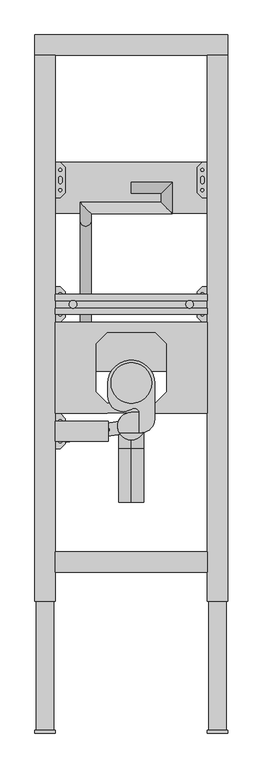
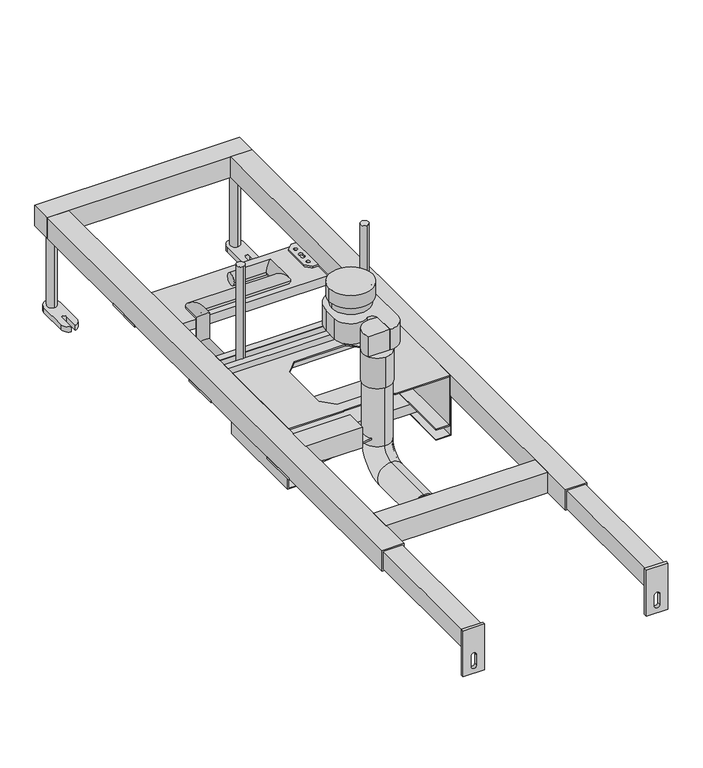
"""IFC4 building model written with IfcOpenShell, lengths in millimetres: flow terminal geometry, LIV-FIX UR ELECTR.TRAP : LIV-FIX UR ELECTR.TRAP."""

from ifc_helpers import new_model, si_unit, point, frame, frame_2d, origin, origin_with_axes, place, context, project, spatial, polyline, circle_curve, ellipse_curve, trimmed, segment, composite_curve, outline, extrude, faceted_brep, source, transform, mapped, element, save
from ifc_brep_helpers import plane_surface, cylinder_surface, revolved_surface, advanced_brep


def flow_terminal_e5d1f87f(model_context):
    return source(origin(), model_context, "Body", "SolidModel", [
        extrude(outline(composite_curve([segment(trimmed(circle_curve(frame_2d((0.0, 489.9399545)), 40.0), [point((-40.0, 489.9399545))], [point((40.0, 489.9399545))], False, "CARTESIAN"), True, "CONTINUOUS"), segment(trimmed(circle_curve(frame_2d((0.0, 489.9399545)), 40.0), [point((40.0, 489.9399545))], [point((-40.0, 489.9399545))], False, "CARTESIAN"), True, "CONTINUOUS")], self_intersect=False)), frame((0.0, 0.0, 375.0), z_axis=(0.0, 0.0, 1.0), x_axis=(1.0, 0.0, 0.0)), (0.0, 0.0, 1.0), 26.0),
        extrude(outline(composite_curve([segment(trimmed(circle_curve(frame_2d((0.0, 489.9399545)), 35.0), [point((-35.0, 489.9399545))], [point((35.0, 489.9399545))], False, "CARTESIAN"), True, "CONTINUOUS"), segment(trimmed(circle_curve(frame_2d((0.0, 489.9399545)), 35.0), [point((35.0, 489.9399545))], [point((-35.0, 489.9399545))], False, "CARTESIAN"), True, "CONTINUOUS")], self_intersect=False)), frame((0.0, 0.0, 360.0), z_axis=(0.0, 0.0, 1.0), x_axis=(1.0, 0.0, 0.0)), (0.0, 0.0, 1.0), 40.0),
        extrude(outline(composite_curve([segment(trimmed(circle_curve(frame_2d((0.0, 489.0)), 46.0), [point((-46.0, 489.0))], [point((46.0, 489.0))], False, "CARTESIAN"), True, "CONTINUOUS"), segment(polyline([(46.0, 489.0), (46.0, 418.8328157)]), True, "CONTINUOUS"), segment(trimmed(circle_curve(frame_2d((19.0, 418.8328157)), 27.0), [point((46.0, 418.8328157))], [point((16.0, 392.0))], False, "CARTESIAN"), True, "CONTINUOUS"), segment(polyline([(16.0, 392.0), (16.0, 430.1457644)]), True, "CONTINUOUS"), segment(trimmed(circle_curve(frame_2d((6.0, 430.1457644)), 10.0), [point((16.0, 430.1457644))], [point((0.5, 438.4974109))], True, "CARTESIAN"), True, "CONTINUOUS"), segment(trimmed(circle_curve(frame_2d((-16.0, 463.5523505)), 30.0), [point((0.5, 438.4974109))], [point((-46.0, 463.5523505))], False, "CARTESIAN"), True, "CONTINUOUS"), segment(polyline([(-46.0, 463.5523505), (-46.0, 489.0)]), True, "CONTINUOUS")], self_intersect=False)), frame((0.0, 0.0, 320.0), z_axis=(0.0, 0.0, 1.0), x_axis=(1.0, 0.0, 0.0)), (0.0, 0.0, 1.0), 40.0),
        extrude(outline(composite_curve([segment(trimmed(circle_curve(frame_2d((0.0, 405.0)), 27.0), [point((-23.6643191, 392.0))], [point((0.0, 432.0))], False, "CARTESIAN"), True, "CONTINUOUS"), segment(polyline([(0.0, 432.0), (16.0, 432.0), (16.0, 392.0), (-23.6643191, 392.0)]), True, "CONTINUOUS")], self_intersect=False)), frame((0.0, 0.0, 320.0), z_axis=(0.0, 0.0, 1.0), x_axis=(1.0, 0.0, 0.0)), (0.0, 0.0, 1.0), 40.0),
        extrude(outline(composite_curve([segment(trimmed(circle_curve(frame_2d((0.0, 405.0)), 27.0), [point((0.0, 432.0))], [point((0.0, 378.0))], False, "CARTESIAN"), True, "CONTINUOUS"), segment(trimmed(circle_curve(frame_2d((0.0, 405.0)), 27.0), [point((0.0, 378.0))], [point((0.0, 432.0))], False, "CARTESIAN"), True, "CONTINUOUS")], self_intersect=False)), frame((0.0, 0.0, 260.0), z_axis=(0.0, 0.0, 1.0), x_axis=(1.0, 0.0, 0.0)), (0.0, 0.0, 1.0), 60.0),
        advanced_brep(
        [(0.0, 864.0, 171.0), (0.0, 886.0, 171.0), (59.0, 864.0, 171.0), (81.0, 886.0, 171.0), (59.0, 846.0, 171.0), (81.0, 824.0, 171.0), (-101.0, 846.0, 171.0), (-79.0, 824.0, 171.0), (-101.0, 810.0, 171.0), (-79.0, 810.0, 171.0), (-101.0, 810.0, 120.25), (-79.0, 810.0, 120.25), (-101.0, 610.0, 120.25), (-79.0, 610.0, 120.25)],
        [
            (0, 1, circle_curve(frame((0.0, 875.0, 171.0), z_axis=(-1.0, 0.0, 0.0), x_axis=(0.0, 1.0, 0.0)), 11.0)),
            (1, 0, circle_curve(frame((0.0, 875.0, 171.0), z_axis=(-1.0, 0.0, 0.0), x_axis=(0.0, 1.0, 0.0)), 11.0)),
            (0, 2),
            (2, 3, ellipse_curve(frame((70.0, 875.0, 171.0), z_axis=(-0.7071067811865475, 0.7071067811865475, 0.0), x_axis=(-0.7071067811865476, -0.7071067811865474, 0.0)), 15.5563492, 11.0)),
            (3, 1),
            (3, 2, ellipse_curve(frame((70.0, 875.0, 171.0), z_axis=(-0.7071067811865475, 0.7071067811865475, 0.0), x_axis=(-0.7071067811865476, -0.7071067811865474, 0.0)), 15.5563492, 11.0)),
            (2, 4),
            (4, 5, ellipse_curve(frame((70.0, 835.0, 171.0), z_axis=(0.7071067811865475, 0.7071067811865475, 0.0), x_axis=(-0.7071067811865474, 0.7071067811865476, 0.0)), 15.5563492, 11.0)),
            (5, 3),
            (5, 4, ellipse_curve(frame((70.0, 835.0, 171.0), z_axis=(0.7071067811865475, 0.7071067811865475, 0.0), x_axis=(-0.7071067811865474, 0.7071067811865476, 0.0)), 15.5563492, 11.0)),
            (4, 6),
            (6, 7, ellipse_curve(frame((-90.0, 835.0, 171.0), z_axis=(0.7071067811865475, 0.7071067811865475, 0.0), x_axis=(0.7071067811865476, -0.7071067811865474, 0.0)), 15.5563492, 11.0)),
            (7, 5),
            (7, 6, ellipse_curve(frame((-90.0, 835.0, 171.0), z_axis=(0.7071067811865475, 0.7071067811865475, 0.0), x_axis=(0.7071067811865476, -0.7071067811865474, 0.0)), 15.5563492, 11.0)),
            (6, 8),
            (8, 9, ellipse_curve(frame((-90.0, 810.0, 171.0), z_axis=(0.0, 0.7071067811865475, 0.7071067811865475), x_axis=(0.0, 0.7071067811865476, -0.7071067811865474)), 15.5563492, 11.0)),
            (9, 7),
            (9, 8, ellipse_curve(frame((-90.0, 810.0, 171.0), z_axis=(0.0, 0.7071067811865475, 0.7071067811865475), x_axis=(0.0, 0.7071067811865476, -0.7071067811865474)), 15.5563492, 11.0)),
            (8, 10),
            (10, 11, ellipse_curve(frame((-90.0, 810.0, 120.25), z_axis=(0.0, 0.7071067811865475, 0.7071067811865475), x_axis=(0.0, -0.7071067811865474, 0.7071067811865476)), 15.5563492, 11.0)),
            (11, 9),
            (11, 10, ellipse_curve(frame((-90.0, 810.0, 120.25), z_axis=(0.0, 0.7071067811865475, 0.7071067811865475), x_axis=(0.0, -0.7071067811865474, 0.7071067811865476)), 15.5563492, 11.0)),
            (12, 13, circle_curve(frame((-90.0, 610.0, 120.25), z_axis=(0.0, -1.0, 0.0), x_axis=(1.0, 0.0, 0.0)), 11.0)),
            (13, 12, circle_curve(frame((-90.0, 610.0, 120.25), z_axis=(0.0, -1.0, 0.0), x_axis=(1.0, 0.0, 0.0)), 11.0)),
            (10, 12),
            (13, 11),
        ],
        [
            plane_surface(frame((0.0, 875.0, 160.0), z_axis=(-1.0, 0.0, 0.0), x_axis=(0.0, 1.0, 0.0))),
            cylinder_surface(frame((0.0, 875.0, 171.0), z_axis=(-1.0, 0.0, 0.0), x_axis=(0.0, 1.0, 0.0)), 11.0),
            cylinder_surface(frame((70.0, 875.0, 171.0), z_axis=(0.0, 1.0, 0.0), x_axis=(1.0, 0.0, 0.0)), 11.0),
            cylinder_surface(frame((70.0, 835.0, 171.0), z_axis=(1.0, 0.0, 0.0), x_axis=(0.0, -1.0, 0.0)), 11.0),
            cylinder_surface(frame((-90.0, 835.0, 171.0), z_axis=(0.0, 1.0, 0.0), x_axis=(1.0, 0.0, 0.0)), 11.0),
            cylinder_surface(frame((-90.0, 810.0, 171.0), z_axis=(0.0, 0.0, 1.0), x_axis=(1.0, 0.0, 0.0)), 11.0),
            plane_surface(frame((-101.0, 610.0, 120.25), z_axis=(0.0, -1.0, 0.0), x_axis=(0.0, 0.0, -1.0))),
            cylinder_surface(frame((-90.0, 810.0, 120.25), z_axis=(0.0, 1.0, 0.0), x_axis=(1.0, 0.0, 0.0)), 11.0),
        ],
        [
            (0, [[1, 2]]),
            (1, [[-1, 3, 4, 5]]),
            (1, [[-2, -5, 6, -3]]),
            (2, [[-4, 7, 8, 9]]),
            (2, [[-6, -9, 10, -7]]),
            (3, [[-8, 11, 12, 13]]),
            (3, [[-10, -13, 14, -11]]),
            (4, [[-12, 15, 16, 17]]),
            (4, [[-14, -17, 18, -15]]),
            (5, [[-16, 19, 20, 21]]),
            (5, [[-18, -21, 22, -19]]),
            (6, [[23, 24]]),
            (7, [[-20, 25, -24, 26]]),
            (7, [[-22, -26, -23, -25]]),
        ],
    ),
        faceted_brep([(-150.0, 610.0, 101.5), (-150.0, 610.0, 200.0), (150.0, 610.0, 200.0), (150.0, 610.0, 101.5), (123.5, 610.0, 101.5), (123.5, 610.0, 103.5), (148.0, 610.0, 103.5), (148.0, 610.0, 198.0), (-148.0, 610.0, 198.0), (-148.0, 610.0, 103.5), (-123.5800615, 610.0, 103.5), (-123.5800615, 610.0, 101.5), (-150.0, 430.0, 101.5), (-123.5800615, 430.0, 101.5), (-123.5800615, 430.0, 103.5), (-148.0, 430.0, 103.5), (-148.0, 430.0, 198.0), (-47.6726189, 430.0, 198.0), (-47.6726189, 430.0, 200.0), (-150.0, 430.0, 200.0), (148.0, 430.0, 198.0), (148.0, 430.0, 103.5), (123.5, 430.0, 103.5), (123.5, 430.0, 101.5), (150.0, 430.0, 101.5), (150.0, 430.0, 200.0), (47.6726189, 430.0, 200.0), (47.6726189, 430.0, 198.0), (-47.6726189, 431.0, 200.0), (47.6726189, 431.0, 200.0), (47.6726189, 589.0, 200.0), (58.3363094, 578.3363094, 200.0), (69.0, 567.6726189, 200.0), (69.0, 472.3273811, 200.0), (58.3363094, 461.6636906, 200.0), (47.6726189, 451.0, 200.0), (-47.6726189, 451.0, 200.0), (-58.3363094, 461.6636906, 200.0), (-69.0, 472.3273811, 200.0), (-69.0, 567.6726189, 200.0), (-58.3363094, 578.3363094, 200.0), (-47.6726189, 589.0, 200.0), (47.6726189, 431.0, 198.0), (-47.6726189, 431.0, 198.0), (58.3363094, 578.3363094, 198.0), (47.6726189, 589.0, 198.0), (-47.6726189, 589.0, 198.0), (-58.3363094, 578.3363094, 198.0), (-69.0, 567.6726189, 198.0), (-69.0, 472.3273811, 198.0), (-58.3363094, 461.6636906, 198.0), (-47.6726189, 451.0, 198.0), (47.6726189, 451.0, 198.0), (58.3363094, 461.6636906, 198.0), (69.0, 472.3273811, 198.0), (69.0, 567.6726189, 198.0)], [[[0, 1, 2, 3, 4, 5, 6, 7, 8, 9, 10, 11]], [[12, 13, 14, 15, 16, 17, 18, 19]], [[20, 21, 22, 23, 24, 25, 26, 27]], [[1, 0, 12, 19]], [[2, 1, 19, 18, 28, 29, 26, 25], [30, 31, 32, 33, 34, 35, 36, 37, 38, 39, 40, 41]], [[3, 2, 25, 24]], [[4, 3, 24, 23]], [[5, 4, 23, 22]], [[6, 5, 22, 21]], [[7, 6, 21, 20]], [[8, 7, 20, 27, 42, 43, 17, 16], [44, 45, 46, 47, 48, 49, 50, 51, 52, 53, 54, 55]], [[9, 8, 16, 15]], [[10, 9, 15, 14]], [[11, 10, 14, 13]], [[0, 11, 13, 12]], [[44, 31, 30, 45]], [[31, 44, 55, 32]], [[32, 55, 54, 33]], [[33, 54, 53, 34]], [[34, 53, 52, 35]], [[35, 52, 51, 36]], [[36, 51, 50, 37]], [[37, 50, 49, 38]], [[38, 49, 48, 39]], [[39, 48, 47, 40]], [[40, 47, 46, 41]], [[45, 30, 41, 46]], [[29, 42, 27, 26]], [[43, 28, 18, 17]], [[42, 29, 28, 43]]]),
        extrude(outline(composite_curve([segment(polyline([(-131.927169, 398.0776204), (-23.2497123, 414.1897159)]), True, "CONTINUOUS"), segment(trimmed(circle_curve(frame_2d((0.0, 405.0)), 25.0), [point((-23.2497123, 414.1897159))], [point((-19.5833836, 389.4600165))], True, "CARTESIAN"), True, "CONTINUOUS"), segment(polyline([(-19.5833836, 389.4600165), (-128.2608403, 373.3479209), (-130.0940046, 385.7127707), (-131.927169, 398.0776204)]), True, "CONTINUOUS")], self_intersect=False), holes=[composite_curve([segment(polyline([(-46.3892943, 401.1545985), (-115.759634, 390.8700227)]), True, "CONTINUOUS"), segment(trimmed(circle_curve(frame_2d((-115.256185, 387.9125679)), 3.0), [point((-115.759634, 390.8700227))], [point((-114.8161595, 384.9450137))], True, "CARTESIAN"), True, "CONTINUOUS"), segment(polyline([(-114.8161595, 384.9450137), (-45.4776009, 395.2264551)]), True, "CONTINUOUS"), segment(trimmed(circle_curve(frame_2d((-46.0130266, 398.1782883)), 3.0), [point((-45.4776009, 395.2264551))], [point((-46.3892943, 401.1545985))], True, "CARTESIAN"), True, "CONTINUOUS")], self_intersect=False)]), frame((0.0, 0.0, 157.378088), z_axis=(0.0, 0.0, 1.0), x_axis=(1.0, 0.0, 0.0)), (0.0, 0.0, 1.0), 3.0),
        extrude(outline(composite_curve([segment(trimmed(circle_curve(frame_2d((-115.0, 645.0)), 7.5154833), [point((-115.0, 652.5154833))], [point((-115.0, 637.4845167))], False, "CARTESIAN"), True, "CONTINUOUS"), segment(trimmed(circle_curve(frame_2d((-115.0, 645.0)), 7.5154833), [point((-115.0, 637.4845167))], [point((-115.0, 652.5154833))], False, "CARTESIAN"), True, "CONTINUOUS")], self_intersect=False)), frame((0.0, 0.0, 180.0), z_axis=(0.0, 0.0, 1.0), x_axis=(1.0, 0.0, 0.0)), (0.0, 0.0, 1.0), 200.0),
        extrude(outline(composite_curve([segment(trimmed(circle_curve(frame_2d((115.0, 645.0)), 7.5154833), [point((115.0, 652.5154833))], [point((115.0, 637.4845167))], False, "CARTESIAN"), True, "CONTINUOUS"), segment(trimmed(circle_curve(frame_2d((115.0, 645.0)), 7.5154833), [point((115.0, 637.4845167))], [point((115.0, 652.5154833))], False, "CARTESIAN"), True, "CONTINUOUS")], self_intersect=False)), frame((0.0, 0.0, 180.0), z_axis=(0.0, 0.0, 1.0), x_axis=(1.0, 0.0, 0.0)), (0.0, 0.0, 1.0), 200.0),
        extrude(outline(polyline([(150.0, 610.0), (150.0, 513.0), (-150.0, 513.0), (-150.0, 610.0), (150.0, 610.0)])), frame((0.0, 0.0, 83.5), z_axis=(0.0, 0.0, 1.0), x_axis=(1.0, 0.0, 0.0)), (0.0, 0.0, 1.0), 18.0),
        extrude(outline(polyline([(160.0, 185.0), (160.0, 150.0), (83.5, 150.0), (83.5, 123.5), (82.0, 123.5), (82.0, 151.5), (158.5, 151.5), (158.5, 185.0), (160.0, 185.0)])), frame((0.0, 430.0, 0.0), z_axis=(0.0, 1.0, 0.0), x_axis=(0.0, 0.0, 1.0)), (0.0, 0.0, 1.0), 180.0),
        extrude(outline(polyline([(160.0, -185.0), (158.5, -185.0), (158.5, -151.5), (82.0, -151.5), (82.0, -123.5), (83.5, -123.5), (83.5, -150.0), (160.0, -150.0), (160.0, -185.0)])), frame((0.0, 430.0, 0.0), z_axis=(0.0, 1.0, 0.0), x_axis=(0.0, 0.0, 1.0)), (0.0, 0.0, 1.0), 180.0),
        extrude(outline(polyline([(625.0, 200.0), (637.4845167, 200.0), (637.4845167, 198.5), (626.5, 198.5), (626.5, 161.5), (663.5, 161.5), (663.5, 198.5), (652.5154833, 198.5), (652.5154833, 200.0), (665.0, 200.0), (665.0, 160.0), (625.0, 160.0), (625.0, 200.0)])), frame((-150.0, 0.0, 0.0), z_axis=(1.0, 0.0, 0.0), x_axis=(0.0, 1.0, 0.0)), (0.0, 0.0, 1.0), 300.0),
        extrude(outline(polyline([(140.0, 610.0), (130.0, 620.0), (130.0, 670.0), (140.0, 680.0), (190.0, 680.0), (190.0, 610.0), (140.0, 610.0)]), holes=[composite_curve([segment(trimmed(circle_curve(frame_2d((175.0, 645.0)), 4.5), [point((175.0, 640.5))], [point((175.0, 649.5))], True, "CARTESIAN"), True, "CONTINUOUS"), segment(trimmed(circle_curve(frame_2d((175.0, 645.0)), 4.5), [point((175.0, 649.5))], [point((175.0, 640.5))], True, "CARTESIAN"), True, "CONTINUOUS")], self_intersect=False), composite_curve([segment(trimmed(circle_curve(frame_2d((175.0, 665.0)), 4.5), [point((175.0, 660.5))], [point((175.0, 669.5))], True, "CARTESIAN"), True, "CONTINUOUS"), segment(trimmed(circle_curve(frame_2d((175.0, 665.0)), 4.5), [point((175.0, 669.5))], [point((175.0, 660.5))], True, "CARTESIAN"), True, "CONTINUOUS")], self_intersect=False), composite_curve([segment(trimmed(circle_curve(frame_2d((175.0, 625.0)), 4.5), [point((175.0, 620.5))], [point((175.0, 629.5))], True, "CARTESIAN"), True, "CONTINUOUS"), segment(trimmed(circle_curve(frame_2d((175.0, 625.0)), 4.5), [point((175.0, 629.5))], [point((175.0, 620.5))], True, "CARTESIAN"), True, "CONTINUOUS")], self_intersect=False), composite_curve([segment(trimmed(circle_curve(frame_2d((140.0, 665.0)), 2.9795218), [point((140.0, 662.0204782))], [point((140.0, 667.9795218))], True, "CARTESIAN"), True, "CONTINUOUS"), segment(trimmed(circle_curve(frame_2d((140.0, 665.0)), 2.9795218), [point((140.0, 667.9795218))], [point((140.0, 662.0204782))], True, "CARTESIAN"), True, "CONTINUOUS")], self_intersect=False), composite_curve([segment(trimmed(circle_curve(frame_2d((140.0, 625.0)), 2.9795218), [point((140.0, 622.0204782))], [point((140.0, 627.9795218))], True, "CARTESIAN"), True, "CONTINUOUS"), segment(trimmed(circle_curve(frame_2d((140.0, 625.0)), 2.9795218), [point((140.0, 627.9795218))], [point((140.0, 622.0204782))], True, "CARTESIAN"), True, "CONTINUOUS")], self_intersect=False), composite_curve([segment(trimmed(circle_curve(frame_2d((140.0, 648.5)), 3.5), [point((143.5, 648.5))], [point((136.5, 648.5))], True, "CARTESIAN"), True, "CONTINUOUS"), segment(polyline([(136.5, 648.5), (136.5, 641.5)]), True, "CONTINUOUS"), segment(trimmed(circle_curve(frame_2d((140.0, 641.5)), 3.5), [point((136.5, 641.5))], [point((143.5, 641.5))], True, "CARTESIAN"), True, "CONTINUOUS"), segment(polyline([(143.5, 641.5), (143.5, 648.5)]), True, "CONTINUOUS")], self_intersect=False)]), frame((0.0, 0.0, 156.0), z_axis=(0.0, 0.0, 1.0), x_axis=(1.0, 0.0, 0.0)), (0.0, 0.0, 1.0), 4.0),
        extrude(outline(polyline([(-140.0, 610.0), (-190.0, 610.0), (-190.0, 680.0), (-140.0, 680.0), (-130.0, 670.0), (-130.0, 620.0), (-140.0, 610.0)]), holes=[composite_curve([segment(trimmed(circle_curve(frame_2d((-175.0, 645.0)), 4.5), [point((-175.0, 640.5))], [point((-175.0, 649.5))], True, "CARTESIAN"), True, "CONTINUOUS"), segment(trimmed(circle_curve(frame_2d((-175.0, 645.0)), 4.5), [point((-175.0, 649.5))], [point((-175.0, 640.5))], True, "CARTESIAN"), True, "CONTINUOUS")], self_intersect=False), composite_curve([segment(trimmed(circle_curve(frame_2d((-175.0, 665.0)), 4.5), [point((-175.0, 660.5))], [point((-175.0, 669.5))], True, "CARTESIAN"), True, "CONTINUOUS"), segment(trimmed(circle_curve(frame_2d((-175.0, 665.0)), 4.5), [point((-175.0, 669.5))], [point((-175.0, 660.5))], True, "CARTESIAN"), True, "CONTINUOUS")], self_intersect=False), composite_curve([segment(trimmed(circle_curve(frame_2d((-175.0, 625.0)), 4.5), [point((-175.0, 620.5))], [point((-175.0, 629.5))], True, "CARTESIAN"), True, "CONTINUOUS"), segment(trimmed(circle_curve(frame_2d((-175.0, 625.0)), 4.5), [point((-175.0, 629.5))], [point((-175.0, 620.5))], True, "CARTESIAN"), True, "CONTINUOUS")], self_intersect=False), composite_curve([segment(trimmed(circle_curve(frame_2d((-140.0, 665.0)), 2.9795218), [point((-140.0, 662.0204782))], [point((-140.0, 667.9795218))], True, "CARTESIAN"), True, "CONTINUOUS"), segment(trimmed(circle_curve(frame_2d((-140.0, 665.0)), 2.9795218), [point((-140.0, 667.9795218))], [point((-140.0, 662.0204782))], True, "CARTESIAN"), True, "CONTINUOUS")], self_intersect=False), composite_curve([segment(trimmed(circle_curve(frame_2d((-140.0, 625.0)), 2.9795218), [point((-140.0, 622.0204782))], [point((-140.0, 627.9795218))], True, "CARTESIAN"), True, "CONTINUOUS"), segment(trimmed(circle_curve(frame_2d((-140.0, 625.0)), 2.9795218), [point((-140.0, 627.9795218))], [point((-140.0, 622.0204782))], True, "CARTESIAN"), True, "CONTINUOUS")], self_intersect=False), composite_curve([segment(polyline([(-143.5, 648.5), (-143.5, 641.5)]), True, "CONTINUOUS"), segment(trimmed(circle_curve(frame_2d((-140.0, 641.5)), 3.5), [point((-143.5, 641.5))], [point((-136.5, 641.5))], True, "CARTESIAN"), True, "CONTINUOUS"), segment(polyline([(-136.5, 641.5), (-136.5, 648.5)]), True, "CONTINUOUS"), segment(trimmed(circle_curve(frame_2d((-140.0, 648.5)), 3.5), [point((-136.5, 648.5))], [point((-143.5, 648.5))], True, "CARTESIAN"), True, "CONTINUOUS")], self_intersect=False)]), frame((0.0, 0.0, 156.0), z_axis=(0.0, 0.0, 1.0), x_axis=(1.0, 0.0, 0.0)), (0.0, 0.0, 1.0), 4.0),
        extrude(outline(polyline([(150.0, 925.0), (150.0, 825.0), (-150.0, 825.0), (-150.0, 925.0), (150.0, 925.0)])), frame((0.0, 0.0, 138.0), z_axis=(0.0, 0.0, 1.0), x_axis=(1.0, 0.0, 0.0)), (0.0, 0.0, 1.0), 18.0),
        extrude(outline(polyline([(-45.0, 415.0), (-45.0, 375.0), (-150.0, 375.0), (-150.0, 415.0), (-45.0, 415.0)])), frame((0.0, 0.0, 160.0), z_axis=(0.0, 0.0, 1.0), x_axis=(1.0, 0.0, 0.0)), (0.0, 0.0, 1.0), 40.0),
        extrude(outline(polyline([(140.0, 855.0), (130.0, 865.0), (130.0, 915.0), (140.0, 925.0), (190.0, 925.0), (190.0, 855.0), (140.0, 855.0)]), holes=[composite_curve([segment(trimmed(circle_curve(frame_2d((175.0, 890.0)), 4.5), [point((175.0, 885.5))], [point((175.0, 894.5))], True, "CARTESIAN"), True, "CONTINUOUS"), segment(trimmed(circle_curve(frame_2d((175.0, 890.0)), 4.5), [point((175.0, 894.5))], [point((175.0, 885.5))], True, "CARTESIAN"), True, "CONTINUOUS")], self_intersect=False), composite_curve([segment(trimmed(circle_curve(frame_2d((175.0, 910.0)), 4.5), [point((175.0, 905.5))], [point((175.0, 914.5))], True, "CARTESIAN"), True, "CONTINUOUS"), segment(trimmed(circle_curve(frame_2d((175.0, 910.0)), 4.5), [point((175.0, 914.5))], [point((175.0, 905.5))], True, "CARTESIAN"), True, "CONTINUOUS")], self_intersect=False), composite_curve([segment(trimmed(circle_curve(frame_2d((175.0, 870.0)), 4.5), [point((175.0, 865.5))], [point((175.0, 874.5))], True, "CARTESIAN"), True, "CONTINUOUS"), segment(trimmed(circle_curve(frame_2d((175.0, 870.0)), 4.5), [point((175.0, 874.5))], [point((175.0, 865.5))], True, "CARTESIAN"), True, "CONTINUOUS")], self_intersect=False), composite_curve([segment(trimmed(circle_curve(frame_2d((140.0, 910.0)), 2.9795218), [point((140.0, 907.0204782))], [point((140.0, 912.9795218))], True, "CARTESIAN"), True, "CONTINUOUS"), segment(trimmed(circle_curve(frame_2d((140.0, 910.0)), 2.9795218), [point((140.0, 912.9795218))], [point((140.0, 907.0204782))], True, "CARTESIAN"), True, "CONTINUOUS")], self_intersect=False), composite_curve([segment(trimmed(circle_curve(frame_2d((140.0, 870.0)), 2.9795218), [point((140.0, 867.0204782))], [point((140.0, 872.9795218))], True, "CARTESIAN"), True, "CONTINUOUS"), segment(trimmed(circle_curve(frame_2d((140.0, 870.0)), 2.9795218), [point((140.0, 872.9795218))], [point((140.0, 867.0204782))], True, "CARTESIAN"), True, "CONTINUOUS")], self_intersect=False), composite_curve([segment(trimmed(circle_curve(frame_2d((140.0, 893.5)), 3.5), [point((143.5, 893.5))], [point((136.5, 893.5))], True, "CARTESIAN"), True, "CONTINUOUS"), segment(polyline([(136.5, 893.5), (136.5, 886.5)]), True, "CONTINUOUS"), segment(trimmed(circle_curve(frame_2d((140.0, 886.5)), 3.5), [point((136.5, 886.5))], [point((143.5, 886.5))], True, "CARTESIAN"), True, "CONTINUOUS"), segment(polyline([(143.5, 886.5), (143.5, 893.5)]), True, "CONTINUOUS")], self_intersect=False)]), frame((0.0, 0.0, 156.0), z_axis=(0.0, 0.0, 1.0), x_axis=(1.0, 0.0, 0.0)), (0.0, 0.0, 1.0), 4.0),
        extrude(outline(polyline([(-140.0, 855.0), (-190.0, 855.0), (-190.0, 925.0), (-140.0, 925.0), (-130.0, 915.0), (-130.0, 865.0), (-140.0, 855.0)]), holes=[composite_curve([segment(trimmed(circle_curve(frame_2d((-175.0, 890.0)), 4.5), [point((-175.0, 885.5))], [point((-175.0, 894.5))], True, "CARTESIAN"), True, "CONTINUOUS"), segment(trimmed(circle_curve(frame_2d((-175.0, 890.0)), 4.5), [point((-175.0, 894.5))], [point((-175.0, 885.5))], True, "CARTESIAN"), True, "CONTINUOUS")], self_intersect=False), composite_curve([segment(trimmed(circle_curve(frame_2d((-175.0, 910.0)), 4.5), [point((-175.0, 905.5))], [point((-175.0, 914.5))], True, "CARTESIAN"), True, "CONTINUOUS"), segment(trimmed(circle_curve(frame_2d((-175.0, 910.0)), 4.5), [point((-175.0, 914.5))], [point((-175.0, 905.5))], True, "CARTESIAN"), True, "CONTINUOUS")], self_intersect=False), composite_curve([segment(trimmed(circle_curve(frame_2d((-175.0, 870.0)), 4.5), [point((-175.0, 865.5))], [point((-175.0, 874.5))], True, "CARTESIAN"), True, "CONTINUOUS"), segment(trimmed(circle_curve(frame_2d((-175.0, 870.0)), 4.5), [point((-175.0, 874.5))], [point((-175.0, 865.5))], True, "CARTESIAN"), True, "CONTINUOUS")], self_intersect=False), composite_curve([segment(trimmed(circle_curve(frame_2d((-140.0, 910.0)), 2.9795218), [point((-140.0, 907.0204782))], [point((-140.0, 912.9795218))], True, "CARTESIAN"), True, "CONTINUOUS"), segment(trimmed(circle_curve(frame_2d((-140.0, 910.0)), 2.9795218), [point((-140.0, 912.9795218))], [point((-140.0, 907.0204782))], True, "CARTESIAN"), True, "CONTINUOUS")], self_intersect=False), composite_curve([segment(trimmed(circle_curve(frame_2d((-140.0, 870.0)), 2.9795218), [point((-140.0, 867.0204782))], [point((-140.0, 872.9795218))], True, "CARTESIAN"), True, "CONTINUOUS"), segment(trimmed(circle_curve(frame_2d((-140.0, 870.0)), 2.9795218), [point((-140.0, 872.9795218))], [point((-140.0, 867.0204782))], True, "CARTESIAN"), True, "CONTINUOUS")], self_intersect=False), composite_curve([segment(polyline([(-143.5, 893.5), (-143.5, 886.5)]), True, "CONTINUOUS"), segment(trimmed(circle_curve(frame_2d((-140.0, 886.5)), 3.5), [point((-143.5, 886.5))], [point((-136.5, 886.5))], True, "CARTESIAN"), True, "CONTINUOUS"), segment(polyline([(-136.5, 886.5), (-136.5, 893.5)]), True, "CONTINUOUS"), segment(trimmed(circle_curve(frame_2d((-140.0, 893.5)), 3.5), [point((-136.5, 893.5))], [point((-143.5, 893.5))], True, "CARTESIAN"), True, "CONTINUOUS")], self_intersect=False)]), frame((0.0, 0.0, 156.0), z_axis=(0.0, 0.0, 1.0), x_axis=(1.0, 0.0, 0.0)), (0.0, 0.0, 1.0), 4.0),
        advanced_brep(
        [(0.0, 255.0, 75.0), (0.0, 255.0, 125.0), (0.0, 255.0, 77.0), (0.0, 255.0, 123.0), (0.0, 360.0, 75.0), (0.0, 360.0, 125.0), (0.0, 430.0, 260.0), (0.0, 380.0, 260.0), (0.0, 428.0, 260.0), (0.0, 382.0, 260.0), (0.0, 380.0, 145.0), (0.0, 430.0, 145.0), (0.0, 360.0, 77.0), (0.0, 360.0, 123.0), (0.0, 382.0, 145.0), (0.0, 428.0, 145.0)],
        [
            (0, 1, circle_curve(frame((0.0, 255.0, 100.0), z_axis=(0.0, -1.0, 0.0), x_axis=(0.0, 0.0, 1.0)), 25.0)),
            (1, 0, circle_curve(frame((0.0, 255.0, 100.0), z_axis=(0.0, -1.0, 0.0), x_axis=(0.0, 0.0, 1.0)), 25.0)),
            (2, 3, circle_curve(frame((0.0, 255.0, 100.0), z_axis=(0.0, 1.0, 0.0), x_axis=(0.0, 0.0, 1.0)), 23.0)),
            (3, 2, circle_curve(frame((0.0, 255.0, 100.0), z_axis=(0.0, 1.0, 0.0), x_axis=(0.0, 0.0, 1.0)), 23.0)),
            (0, 4),
            (4, 5, circle_curve(frame((0.0, 360.0, 100.0), z_axis=(0.0, -1.0, 0.0), x_axis=(0.0, 0.0, 1.0)), 25.0)),
            (5, 1),
            (5, 4, circle_curve(frame((0.0, 360.0, 100.0), z_axis=(0.0, -1.0, 0.0), x_axis=(0.0, 0.0, 1.0)), 25.0)),
            (6, 7, circle_curve(frame((0.0, 405.0, 260.0), z_axis=(0.0, 0.0, 1.0), x_axis=(0.0, -1.0, 0.0)), 25.0)),
            (7, 6, circle_curve(frame((0.0, 405.0, 260.0), z_axis=(0.0, 0.0, 1.0), x_axis=(0.0, -1.0, 0.0)), 25.0)),
            (8, 9, circle_curve(frame((0.0, 405.0, 260.0), z_axis=(0.0, 0.0, -1.0), x_axis=(0.0, -1.0, 0.0)), 23.0)),
            (9, 8, circle_curve(frame((0.0, 405.0, 260.0), z_axis=(0.0, 0.0, -1.0), x_axis=(0.0, -1.0, 0.0)), 23.0)),
            (10, 11, circle_curve(frame((0.0, 405.0, 145.0), z_axis=(0.0, 0.0, 1.0), x_axis=(0.0, -1.0, 0.0)), 25.0)),
            (11, 6),
            (7, 10),
            (11, 10, circle_curve(frame((0.0, 405.0, 145.0), z_axis=(0.0, 0.0, 1.0), x_axis=(0.0, -1.0, 0.0)), 25.0)),
            (10, 5, circle_curve(frame((0.0, 360.0, 145.0), z_axis=(-1.0, 0.0, 0.0), x_axis=(0.0, 0.0, -1.0)), 20.0)),
            (4, 11, circle_curve(frame((0.0, 360.0, 145.0), z_axis=(1.0, 0.0, 0.0), x_axis=(0.0, 0.0, -1.0)), 70.0)),
            (2, 12),
            (12, 13, circle_curve(frame((0.0, 360.0, 100.0), z_axis=(0.0, 1.0, 0.0), x_axis=(0.0, 0.0, 1.0)), 23.0)),
            (13, 3),
            (13, 12, circle_curve(frame((0.0, 360.0, 100.0), z_axis=(0.0, 1.0, 0.0), x_axis=(0.0, 0.0, 1.0)), 23.0)),
            (14, 13, circle_curve(frame((0.0, 360.0, 145.0), z_axis=(-1.0, 0.0, 0.0), x_axis=(0.0, 0.0, -1.0)), 22.0)),
            (12, 15, circle_curve(frame((0.0, 360.0, 145.0), z_axis=(1.0, 0.0, 0.0), x_axis=(0.0, 0.0, -1.0)), 68.0)),
            (15, 14, circle_curve(frame((0.0, 405.0, 145.0), z_axis=(0.0, 0.0, 1.0), x_axis=(0.0, -1.0, 0.0)), 23.0)),
            (14, 15, circle_curve(frame((0.0, 405.0, 145.0), z_axis=(0.0, 0.0, 1.0), x_axis=(0.0, -1.0, 0.0)), 23.0)),
            (15, 8),
            (9, 14),
        ],
        [
            plane_surface(frame((0.0, 255.0, 100.0), z_axis=(0.0, -1.0, 0.0), x_axis=(1.0, 0.0, 0.0))),
            cylinder_surface(frame((0.0, 255.0, 100.0), z_axis=(0.0, -1.0, 0.0), x_axis=(0.0, 0.0, 1.0)), 25.0),
            plane_surface(frame((0.0, 405.0, 260.0), z_axis=(0.0, 0.0, 1.0), x_axis=(1.0, 0.0, 0.0))),
            cylinder_surface(frame((0.0, 405.0, 145.0), z_axis=(0.0, 0.0, -1.0), x_axis=(0.0, -1.0, 0.0)), 25.0),
            revolved_surface(trimmed(ellipse_curve(frame((0.0, 360.0, 100.0), z_axis=(0.0, -1.0, 0.0), x_axis=(0.0, 0.0, 1.0)), 25.0, 25.0), [point((0.0, 360.0, 75.0))], [point((0.0, 360.0, 125.0))], True, "CARTESIAN"), (0.0, 360.0, 145.0), (1.0, 0.0, 0.0)),
            revolved_surface(trimmed(ellipse_curve(frame((0.0, 360.0, 100.0), z_axis=(0.0, -1.0, 0.0), x_axis=(0.0, 0.0, 1.0)), 25.0, 25.0), [point((0.0, 360.0, 125.0))], [point((0.0, 360.0, 75.0))], True, "CARTESIAN"), (0.0, 360.0, 145.0), (1.0, 0.0, 0.0)),
            revolved_surface(polyline([(0.0, 360.0, 123.0), (0.0, 255.0, 123.0)]), (0.0, 255.0, 100.0), (0.0, 1.0, 0.0)),
            revolved_surface(trimmed(ellipse_curve(frame((0.0, 360.0, 100.0), z_axis=(0.0, 1.0, 0.0), x_axis=(0.0, 0.0, 1.0)), 23.0, 23.0), [point((0.0, 360.0, 77.0))], [point((0.0, 360.0, 123.0))], True, "CARTESIAN"), (0.0, 360.0, 145.0), (1.0, 0.0, 0.0)),
            revolved_surface(trimmed(ellipse_curve(frame((0.0, 360.0, 100.0), z_axis=(0.0, 1.0, 0.0), x_axis=(0.0, 0.0, 1.0)), 23.0, 23.0), [point((0.0, 360.0, 123.0))], [point((0.0, 360.0, 77.0))], True, "CARTESIAN"), (0.0, 360.0, 145.0), (1.0, 0.0, 0.0)),
            revolved_surface(polyline([(0.0, 382.0, 260.0), (0.0, 382.0, 145.0)]), (0.0, 405.0, 145.0), (0.0, 0.0, 1.0)),
        ],
        [
            (0, [[1, 2], [3, 4]]),
            (1, [[-1, 5, 6, 7]]),
            (1, [[-2, -7, 8, -5]]),
            (2, [[9, 10], [11, 12]]),
            (3, [[13, 14, -10, 15]]),
            (3, [[16, -15, -9, -14]]),
            (4, [[17, -6, 18, -13]]),
            (5, [[-18, -8, -17, -16]]),
            (6, [[-3, 19, 20, 21]]),
            (6, [[-4, -21, 22, -19]]),
            (7, [[23, -20, 24, 25]]),
            (8, [[-24, -22, -23, 26]]),
            (9, [[-25, 27, -12, 28]]),
            (9, [[-26, -28, -11, -27]]),
        ],
    ),
        extrude(outline(polyline([(-140.0, 360.0), (-190.0, 360.0), (-190.0, 430.0), (-140.0, 430.0), (-130.0, 420.0), (-130.0, 370.0), (-140.0, 360.0)]), holes=[composite_curve([segment(trimmed(circle_curve(frame_2d((-175.0, 395.0)), 4.5), [point((-175.0, 390.5))], [point((-175.0, 399.5))], True, "CARTESIAN"), True, "CONTINUOUS"), segment(trimmed(circle_curve(frame_2d((-175.0, 395.0)), 4.5), [point((-175.0, 399.5))], [point((-175.0, 390.5))], True, "CARTESIAN"), True, "CONTINUOUS")], self_intersect=False), composite_curve([segment(trimmed(circle_curve(frame_2d((-175.0, 415.0)), 4.5), [point((-175.0, 410.5))], [point((-175.0, 419.5))], True, "CARTESIAN"), True, "CONTINUOUS"), segment(trimmed(circle_curve(frame_2d((-175.0, 415.0)), 4.5), [point((-175.0, 419.5))], [point((-175.0, 410.5))], True, "CARTESIAN"), True, "CONTINUOUS")], self_intersect=False), composite_curve([segment(trimmed(circle_curve(frame_2d((-175.0, 375.0)), 4.5), [point((-175.0, 370.5))], [point((-175.0, 379.5))], True, "CARTESIAN"), True, "CONTINUOUS"), segment(trimmed(circle_curve(frame_2d((-175.0, 375.0)), 4.5), [point((-175.0, 379.5))], [point((-175.0, 370.5))], True, "CARTESIAN"), True, "CONTINUOUS")], self_intersect=False), composite_curve([segment(trimmed(circle_curve(frame_2d((-140.0, 415.0)), 2.9795218), [point((-140.0, 412.0204782))], [point((-140.0, 417.9795218))], True, "CARTESIAN"), True, "CONTINUOUS"), segment(trimmed(circle_curve(frame_2d((-140.0, 415.0)), 2.9795218), [point((-140.0, 417.9795218))], [point((-140.0, 412.0204782))], True, "CARTESIAN"), True, "CONTINUOUS")], self_intersect=False), composite_curve([segment(trimmed(circle_curve(frame_2d((-140.0, 375.0)), 2.9795218), [point((-140.0, 372.0204782))], [point((-140.0, 377.9795218))], True, "CARTESIAN"), True, "CONTINUOUS"), segment(trimmed(circle_curve(frame_2d((-140.0, 375.0)), 2.9795218), [point((-140.0, 377.9795218))], [point((-140.0, 372.0204782))], True, "CARTESIAN"), True, "CONTINUOUS")], self_intersect=False), composite_curve([segment(polyline([(-143.5, 398.5), (-143.5, 391.5)]), True, "CONTINUOUS"), segment(trimmed(circle_curve(frame_2d((-140.0, 391.5)), 3.5), [point((-143.5, 391.5))], [point((-136.5, 391.5))], True, "CARTESIAN"), True, "CONTINUOUS"), segment(polyline([(-136.5, 391.5), (-136.5, 398.5)]), True, "CONTINUOUS"), segment(trimmed(circle_curve(frame_2d((-140.0, 398.5)), 3.5), [point((-136.5, 398.5))], [point((-143.5, 398.5))], True, "CARTESIAN"), True, "CONTINUOUS")], self_intersect=False)]), frame((0.0, 0.0, 156.0), z_axis=(0.0, 0.0, 1.0), x_axis=(1.0, 0.0, 0.0)), (0.0, 0.0, 1.0), 4.0),
        extrude(outline(composite_curve([segment(trimmed(circle_curve(frame_2d((-170.0, 1156.0)), 8.75), [point((-170.0, 1147.25))], [point((-170.0, 1164.75))], False, "CARTESIAN"), True, "CONTINUOUS"), segment(trimmed(circle_curve(frame_2d((-170.0, 1156.0)), 8.75), [point((-170.0, 1164.75))], [point((-170.0, 1147.25))], False, "CARTESIAN"), True, "CONTINUOUS")], self_intersect=False)), frame((0.0, 0.0, 10.0), z_axis=(0.0, 0.0, 1.0), x_axis=(1.0, 0.0, 0.0)), (0.0, 0.0, 1.0), 150.0),
        extrude(outline(composite_curve([segment(trimmed(circle_curve(frame_2d((170.0, 1156.0)), 8.75), [point((170.0, 1147.25))], [point((170.0, 1164.75))], False, "CARTESIAN"), True, "CONTINUOUS"), segment(trimmed(circle_curve(frame_2d((170.0, 1156.0)), 8.75), [point((170.0, 1164.75))], [point((170.0, 1147.25))], False, "CARTESIAN"), True, "CONTINUOUS")], self_intersect=False)), frame((0.0, 0.0, 10.0), z_axis=(0.0, 0.0, 1.0), x_axis=(1.0, 0.0, 0.0)), (0.0, 0.0, 1.0), 150.0),
        extrude(outline(composite_curve([segment(trimmed(circle_curve(frame_2d((-170.0, 1156.0)), 15.0), [point((-185.0, 1156.0))], [point((-155.0, 1156.0))], False, "CARTESIAN"), True, "CONTINUOUS"), segment(polyline([(-155.0, 1156.0), (-155.0, 1102.0)]), True, "CONTINUOUS"), segment(trimmed(circle_curve(frame_2d((-170.0, 1102.0)), 15.0), [point((-155.0, 1102.0))], [point((-166.0, 1087.5431677))], False, "CARTESIAN"), True, "CONTINUOUS"), segment(polyline([(-166.0, 1087.5431677), (-166.0, 1116.4568323)]), True, "CONTINUOUS"), segment(trimmed(circle_curve(frame_2d((-170.0, 1116.4568323)), 4.0), [point((-166.0, 1116.4568323))], [point((-174.0, 1116.4568323))], True, "CARTESIAN"), True, "CONTINUOUS"), segment(polyline([(-174.0, 1116.4568323), (-174.0, 1087.5431677)]), True, "CONTINUOUS"), segment(trimmed(circle_curve(frame_2d((-170.0, 1102.0)), 15.0), [point((-174.0, 1087.5431677))], [point((-185.0, 1102.0))], False, "CARTESIAN"), True, "CONTINUOUS"), segment(polyline([(-185.0, 1102.0), (-185.0, 1156.0)]), True, "CONTINUOUS")], self_intersect=False)), origin_with_axes(), (0.0, 0.0, 1.0), 10.0),
        extrude(outline(composite_curve([segment(polyline([(185.0, 1156.0), (185.0, 1102.0)]), True, "CONTINUOUS"), segment(trimmed(circle_curve(frame_2d((170.0, 1102.0)), 15.0), [point((185.0, 1102.0))], [point((174.0, 1087.5431677))], False, "CARTESIAN"), True, "CONTINUOUS"), segment(polyline([(174.0, 1087.5431677), (174.0, 1116.4568323)]), True, "CONTINUOUS"), segment(trimmed(circle_curve(frame_2d((170.0, 1116.4568323)), 4.0), [point((174.0, 1116.4568323))], [point((166.0, 1116.4568323))], True, "CARTESIAN"), True, "CONTINUOUS"), segment(polyline([(166.0, 1116.4568323), (166.0, 1087.5431677)]), True, "CONTINUOUS"), segment(trimmed(circle_curve(frame_2d((170.0, 1102.0)), 15.0), [point((166.0, 1087.5431677))], [point((155.0, 1102.0))], False, "CARTESIAN"), True, "CONTINUOUS"), segment(polyline([(155.0, 1102.0), (155.0, 1156.0)]), True, "CONTINUOUS"), segment(trimmed(circle_curve(frame_2d((170.0, 1156.0)), 15.0), [point((155.0, 1156.0))], [point((185.0, 1156.0))], False, "CARTESIAN"), True, "CONTINUOUS")], self_intersect=False)), origin_with_axes(), (0.0, 0.0, 1.0), 10.0),
        extrude(outline(polyline([(-187.5, 349.0), (-152.5, 349.0), (-152.5, -194.0), (-187.5, -194.0), (-187.5, 349.0)])), frame((0.0, 0.0, 162.5), z_axis=(0.0, 0.0, 1.0), x_axis=(1.0, 0.0, 0.0)), (0.0, 0.0, 1.0), 35.0),
        extrude(outline(polyline([(152.4841074, 349.0), (187.4841074, 349.0), (187.4841074, -194.0), (152.4841074, -194.0), (152.4841074, 349.0)])), frame((0.0, 0.0, 162.5), z_axis=(0.0, 0.0, 1.0), x_axis=(1.0, 0.0, 0.0)), (0.0, 0.0, 1.0), 35.0),
        extrude(outline(polyline([(200.0, 190.0), (200.0, 150.0), (110.0, 150.0), (110.0, 190.0), (200.0, 190.0)]), holes=[composite_curve([segment(trimmed(circle_curve(frame_2d((145.0, 170.0)), 5.0), [point((145.0, 165.0))], [point((145.0, 175.0))], True, "CARTESIAN"), True, "CONTINUOUS"), segment(polyline([(145.0, 175.0), (125.0, 175.0)]), True, "CONTINUOUS"), segment(trimmed(circle_curve(frame_2d((125.0, 170.0)), 5.0), [point((125.0, 175.0))], [point((125.0, 165.0))], True, "CARTESIAN"), True, "CONTINUOUS"), segment(polyline([(125.0, 165.0), (145.0, 165.0)]), True, "CONTINUOUS")], self_intersect=False)]), frame((0.0, -200.0, 0.0), z_axis=(0.0, 1.0, 0.0), x_axis=(0.0, 0.0, 1.0)), (0.0, 0.0, 1.0), 6.0),
        extrude(outline(polyline([(200.0, -150.0), (200.0, -190.0), (110.0, -190.0), (110.0, -150.0), (200.0, -150.0)]), holes=[composite_curve([segment(trimmed(circle_curve(frame_2d((145.0, -170.0)), 5.0), [point((145.0, -175.0))], [point((145.0, -165.0))], True, "CARTESIAN"), True, "CONTINUOUS"), segment(polyline([(145.0, -165.0), (125.0, -165.0)]), True, "CONTINUOUS"), segment(trimmed(circle_curve(frame_2d((125.0, -170.0)), 5.0), [point((125.0, -165.0))], [point((125.0, -175.0))], True, "CARTESIAN"), True, "CONTINUOUS"), segment(polyline([(125.0, -175.0), (145.0, -175.0)]), True, "CONTINUOUS")], self_intersect=False)]), frame((0.0, -200.0, 0.0), z_axis=(0.0, 1.0, 0.0), x_axis=(0.0, 0.0, 1.0)), (0.0, 0.0, 1.0), 6.0),
        extrude(outline(polyline([(150.0, 157.0), (150.0, 117.0), (-150.0, 117.0), (-150.0, 157.0), (150.0, 157.0)])), frame((0.0, 0.0, 160.0), z_axis=(0.0, 0.0, 1.0), x_axis=(1.0, 0.0, 0.0)), (0.0, 0.0, 1.0), 40.0),
        extrude(outline(polyline([(-150.0, 60.0), (-190.0, 60.0), (-190.0, 1136.0), (-150.0, 1136.0), (-150.0, 60.0)])), frame((0.0, 0.0, 160.0), z_axis=(0.0, 0.0, 1.0), x_axis=(1.0, 0.0, 0.0)), (0.0, 0.0, 1.0), 40.0),
        extrude(outline(polyline([(190.0, 60.0), (150.0, 60.0), (150.0, 1136.0), (190.0, 1136.0), (190.0, 60.0)])), frame((0.0, 0.0, 160.0), z_axis=(0.0, 0.0, 1.0), x_axis=(1.0, 0.0, 0.0)), (0.0, 0.0, 1.0), 40.0),
        extrude(outline(polyline([(190.0, 1176.0), (190.0, 1136.0), (-190.0, 1136.0), (-190.0, 1176.0), (190.0, 1176.0)])), frame((0.0, 0.0, 160.0), z_axis=(0.0, 0.0, 1.0), x_axis=(1.0, 0.0, 0.0)), (0.0, 0.0, 1.0), 40.0),
    ])


if __name__ == "__main__":
    model = new_model("IFC4")
    model_context = context("Model", 3, world=origin())
    ifc_project = project(units=[si_unit("LENGTHUNIT", "METRE", prefix="MILLI")], contexts=[model_context])
    site = spatial("IfcSite", under=ifc_project)
    building = spatial("IfcBuilding", under=site)
    placement = place(None, origin())
    flow_terminal_shape = flow_terminal_e5d1f87f(model_context)
    element("IfcFlowTerminal", 1, ObjectType="LIV-FIX UR ELECTR.TRAP : LIV-FIX UR ELECTR.TRAP", at=placement, inside=building, context=model_context, shape_type="MappedRepresentation", body=[
        mapped(flow_terminal_shape, transform((0.0, 0.0, 0.0), x_axis=(1.0, 0.0, 0.0), y_axis=(0.0, 1.0, 0.0), z_axis=(0.0, 0.0, 1.0))),
    ])
    save(model, "model.ifc")
